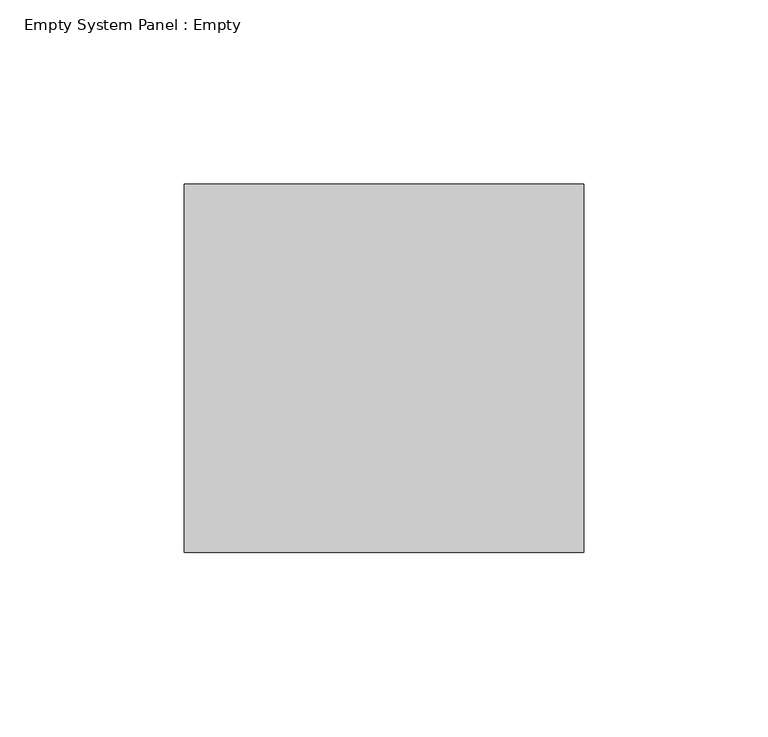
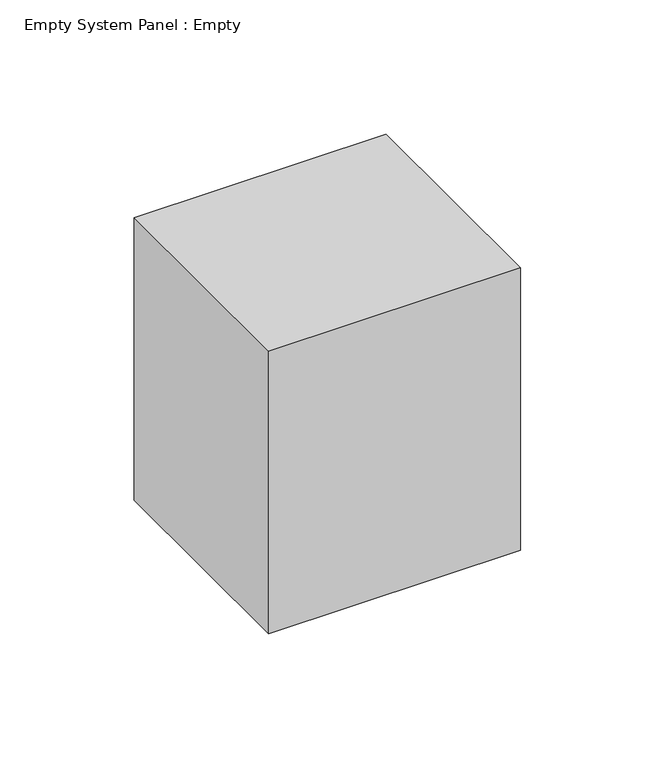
"""IFC4 building model written with IfcOpenShell, lengths in millimetres: plate geometry, Empty System Panel : Empty."""

import ifcopenshell
import ifcopenshell.guid

model = None  # the IFC model being written
_history = None  # IfcOwnerHistory: only IFC2X3 demands one
_inside = {}  # id of a spatial element -> (the spatial element, [elements in it])
_under = {}  # id of a project, library or spatial element -> (it, [spatial elements below it])
_declared = {}  # id of a project -> (the project, [libraries it declares])
_typed = {}  # id of a type object -> (the type object, [elements of that type])
_made_of = {}  # id of a material, layer set ... -> (it, [elements and type objects made of it])


def new_model(schema):
    """Start an empty IFC model of exactly this schema.

    Asked for "IFC4X3", IfcOpenShell would pick the latest addendum, in which some entities
    have other attributes; the version numbers below select the first issue.
    IFC2X3 requires an IfcOwnerHistory on every rooted entity: one is made here for all.
    """
    global model, _history
    if schema == "IFC4X3":
        model = ifcopenshell.file(schema_version=(4, 3, 0, 0))
    else:
        model = ifcopenshell.file(schema=schema)
    _inside.clear()
    _under.clear()
    _declared.clear()
    _typed.clear()
    _made_of.clear()
    _history = None
    if model.schema == "IFC2X3":
        org = make("IfcOrganization", Name="unknown")
        user = make(
            "IfcPersonAndOrganization",
            ThePerson=make("IfcPerson", FamilyName="unknown"),
            TheOrganization=org,
        )
        app = make(
            "IfcApplication",
            ApplicationDeveloper=org,
            Version="unknown",
            ApplicationFullName="unknown",
            ApplicationIdentifier="unknown",
        )
        _history = make(
            "IfcOwnerHistory",
            OwningUser=user,
            OwningApplication=app,
            ChangeAction="ADDED",
            CreationDate=0,
        )
    return model


def make(cls, **values):
    """One entity of the class cls with the attributes given. An attribute that is None is left unset."""
    return model.create_entity(
        cls, **{name: value for name, value in values.items() if value is not None}
    )


def rooted(cls, **values):
    """An entity with a GlobalId (a new one), such as an element, a storey or a relation."""
    return make(cls, GlobalId=ifcopenshell.guid.new(), OwnerHistory=_history, **values)


def si_unit(unit_type, name, prefix=None):
    """IfcSIUnit, for example si_unit("LENGTHUNIT", "METRE", prefix="MILLI")."""
    return make("IfcSIUnit", UnitType=unit_type, Prefix=prefix, Name=name)


def assignment(units):
    """IfcUnitAssignment: the units of a project."""
    return None if units is None else make("IfcUnitAssignment", Units=units)


def point(xyz):
    """IfcCartesianPoint."""
    return None if xyz is None else make("IfcCartesianPoint", Coordinates=xyz)


def direction(xyz):
    """IfcDirection."""
    return None if xyz is None else make("IfcDirection", DirectionRatios=xyz)


def frame(location, z_axis=None, x_axis=None):
    """IfcAxis2Placement3D, a coordinate frame: its origin and axes. An axis left out is left unset."""
    return make(
        "IfcAxis2Placement3D",
        Location=point(location),
        Axis=direction(z_axis),
        RefDirection=direction(x_axis),
    )


def origin():
    """The frame at (0, 0, 0) with its axes left unset."""
    return frame((0.0, 0.0, 0.0))


def origin_with_axes():
    """The frame at (0, 0, 0) with the z axis (0, 0, 1) and the x axis (1, 0, 0) written out."""
    return frame((0.0, 0.0, 0.0), z_axis=(0.0, 0.0, 1.0), x_axis=(1.0, 0.0, 0.0))


def place(relative_to, where):
    """IfcLocalPlacement: puts the frame where relative to a parent placement (None: the world)."""
    return make(
        "IfcLocalPlacement", PlacementRelTo=relative_to, RelativePlacement=where
    )


def context(
    kind, dimensions, precision=None, world=None, true_north=None, identifier=None
):
    """IfcGeometricRepresentationContext, for example the 3D "Model" context."""
    return make(
        "IfcGeometricRepresentationContext",
        ContextIdentifier=identifier,
        ContextType=kind,
        CoordinateSpaceDimension=dimensions,
        Precision=precision,
        WorldCoordinateSystem=world,
        TrueNorth=true_north,
    )


def project(units=None, contexts=None):
    """IfcProject with its units and contexts."""
    return rooted(
        "IfcProject",
        Name="project",
        RepresentationContexts=contexts,
        UnitsInContext=assignment(units),
    )


def spatial(cls, under=None, at=None, **own):
    """A site, building, storey or space (cls), placed at a placement, below another one or the project."""
    s = rooted(cls, ObjectPlacement=at, **own)
    if under is not None:
        _under.setdefault(under.id(), (under, []))[1].append(s)
    return s


def polyline(points):
    """IfcPolyline through the points."""
    return make("IfcPolyline", Points=[point(p) for p in points])


def outline(outer, holes=None, kind="AREA"):
    """IfcArbitraryClosedProfileDef: a profile drawn as a closed curve; with holes, ...WithVoids."""
    if holes is None:
        return make("IfcArbitraryClosedProfileDef", ProfileType=kind, OuterCurve=outer)
    return make(
        "IfcArbitraryProfileDefWithVoids",
        ProfileType=kind,
        OuterCurve=outer,
        InnerCurves=holes,
    )


def extrude(swept, where, along, depth):
    """IfcExtrudedAreaSolid: the profile swept, set in the frame where, extruded along a direction by depth."""
    return make(
        "IfcExtrudedAreaSolid",
        SweptArea=swept,
        Position=where,
        ExtrudedDirection=direction(along),
        Depth=depth,
    )


def shape(context_of_items, identifier, shape_type, items):
    """IfcShapeRepresentation: the items that make up one representation, for example the "Body"."""
    return make(
        "IfcShapeRepresentation",
        ContextOfItems=context_of_items,
        RepresentationIdentifier=identifier,
        RepresentationType=shape_type,
        Items=items,
    )


def source(mapping_origin, context_of_items, identifier, shape_type, items):
    """IfcRepresentationMap: a shape defined once, which mapped items show again and again."""
    return make(
        "IfcRepresentationMap",
        MappingOrigin=mapping_origin,
        MappedRepresentation=shape(context_of_items, identifier, shape_type, items),
    )


def transform(
    local_origin,
    x_axis=None,
    y_axis=None,
    z_axis=None,
    scale=None,
    scale2=None,
    scale3=None,
    uniform=True,
):
    """IfcCartesianTransformationOperator3D, or its non-uniform kind. x_axis, y_axis, z_axis: its Axis1, 2, 3."""
    if uniform:
        return make(
            "IfcCartesianTransformationOperator3D",
            Axis1=direction(x_axis),
            Axis2=direction(y_axis),
            LocalOrigin=point(local_origin),
            Scale=scale,
            Axis3=direction(z_axis),
        )
    return make(
        "IfcCartesianTransformationOperator3DnonUniform",
        Axis1=direction(x_axis),
        Axis2=direction(y_axis),
        LocalOrigin=point(local_origin),
        Scale=scale,
        Axis3=direction(z_axis),
        Scale2=scale2,
        Scale3=scale3,
    )


def mapped(mapping_source, mapping_target):
    """IfcMappedItem: shows the shape of a source again, moved by a transform."""
    return make(
        "IfcMappedItem", MappingSource=mapping_source, MappingTarget=mapping_target
    )


def made_of(thing, what):
    """Note that an element or type object is made of a material, layer set ...; save() writes the relation."""
    if what is not None:
        _made_of.setdefault(what.id(), (what, []))[1].append(thing)
    return thing


def element(
    cls,
    number,
    at=None,
    inside=None,
    cuts=None,
    type_object=None,
    material=None,
    context=None,
    identifier="Body",
    shape_type=None,
    held_by="IfcProductDefinitionShape",
    body=None,
    shapes=None,
    **own,
):
    """One element of the class cls, such as IfcWall. Its Tag is "e" and its number.

    at: its placement. inside: the storey or other place that contains it. cuts: it is an
    opening in that element (IfcRelVoidsElement). A single representation is given by context,
    identifier, shape_type and body (its items); several are given by shapes. held_by: the class
    of the entity that holds the representations. save() writes the other relations.
    """
    e = rooted(cls, Tag="e%d" % number, ObjectPlacement=at, **own)
    if body is not None:
        shapes = [shape(context, identifier, shape_type, body)]
    if shapes is not None:
        e.Representation = make(held_by, Representations=shapes)
    if inside is not None:
        _inside.setdefault(inside.id(), (inside, []))[1].append(e)
    if cuts is not None:
        rooted(
            "IfcRelVoidsElement", RelatingBuildingElement=cuts, RelatedOpeningElement=e
        )
    if type_object is not None:
        _typed.setdefault(type_object.id(), (type_object, []))[1].append(e)
    return made_of(e, material)


def aggregate(whole, parts):
    """IfcRelAggregates: a whole, such as a stair, and the parts it consists of."""
    return rooted("IfcRelAggregates", RelatingObject=whole, RelatedObjects=parts)


def save(model, path):
    """Write the relations noted so far, then the file.

    IfcRelAggregates (storeys below a building ...), IfcRelContainedInSpatialStructure (elements
    in a storey), IfcRelDefinesByType, IfcRelAssociatesMaterial and IfcRelDeclares: one each for
    every whole, place, type object, material and project.
    """
    for whole, parts in _under.values():
        aggregate(whole, parts)
    for where, things in _inside.values():
        rooted(
            "IfcRelContainedInSpatialStructure",
            RelatedElements=things,
            RelatingStructure=where,
        )
    for kind, things in _typed.values():
        rooted("IfcRelDefinesByType", RelatedObjects=things, RelatingType=kind)
    for what, things in _made_of.values():
        rooted("IfcRelAssociatesMaterial", RelatedObjects=things, RelatingMaterial=what)
    for by, libraries in _declared.values():
        rooted("IfcRelDeclares", RelatingContext=by, RelatedDefinitions=libraries)
    model.write(path)


def empty_system_panel_empty_a0248681(model_context):
    return source(origin(), model_context, "Body", "SweptSolid", [
        extrude(outline(polyline([(54.1878048, 50.0), (-54.1878048, 50.0), (-54.1878048, 150.0), (54.1878048, 150.0), (54.1878048, 50.0)])), origin_with_axes(), (0.0, 0.0, 1.0), 128.37561),
    ])


if __name__ == "__main__":
    model = new_model("IFC4")
    model_context = context("Model", 3, world=origin())
    ifc_project = project(units=[si_unit("LENGTHUNIT", "METRE", prefix="MILLI")], contexts=[model_context])
    site = spatial("IfcSite", under=ifc_project)
    building = spatial("IfcBuilding", under=site)
    placement = place(None, origin())
    empty_system_panel_empty_shape = empty_system_panel_empty_a0248681(model_context)
    element("IfcPlate", 1, ObjectType="Empty System Panel : Empty", at=placement, inside=building, context=model_context, shape_type="MappedRepresentation", body=[
        mapped(empty_system_panel_empty_shape, transform((0.0, 0.0, 0.0), x_axis=(1.0, 0.0, 0.0), y_axis=(0.0, 1.0, 0.0), z_axis=(0.0, 0.0, 1.0))),
    ])
    save(model, "model.ifc")
